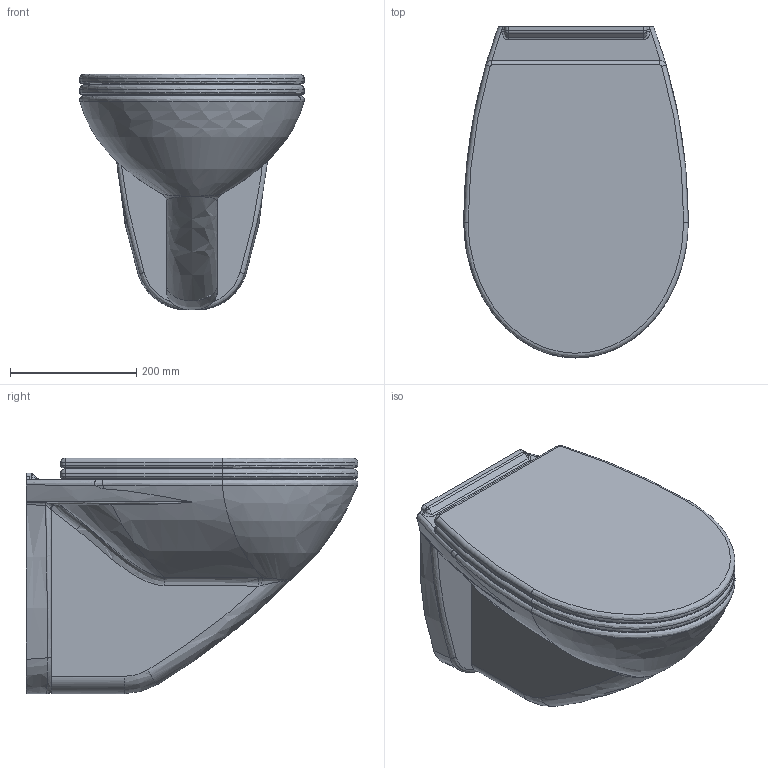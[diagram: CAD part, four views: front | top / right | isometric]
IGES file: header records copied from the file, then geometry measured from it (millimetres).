
Global section: file name: No Iges File Name specified; native system: AutoDesk Inventor R11.0; preprocessor: AutoDesk Inventor Iges Exporter R11.0; author: No Author specified; organization: No Organization specified; date: 20080314.165238; units: millimetre
Bounding box: 356.35 x 526.82 x 374 mm (x, y, z)
Volume: 17411447.3 mm3; surface area: 1289667.9 mm2
Topology: 3 solids, 3 shells, 290 faces, 670 edges, 393 vertices
Faces by surface type: bspline 117, plane 53, revolution 49, cylinder 41, torus 28, sphere 2
